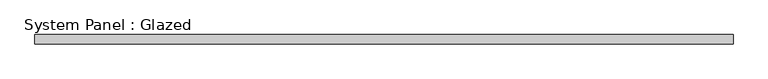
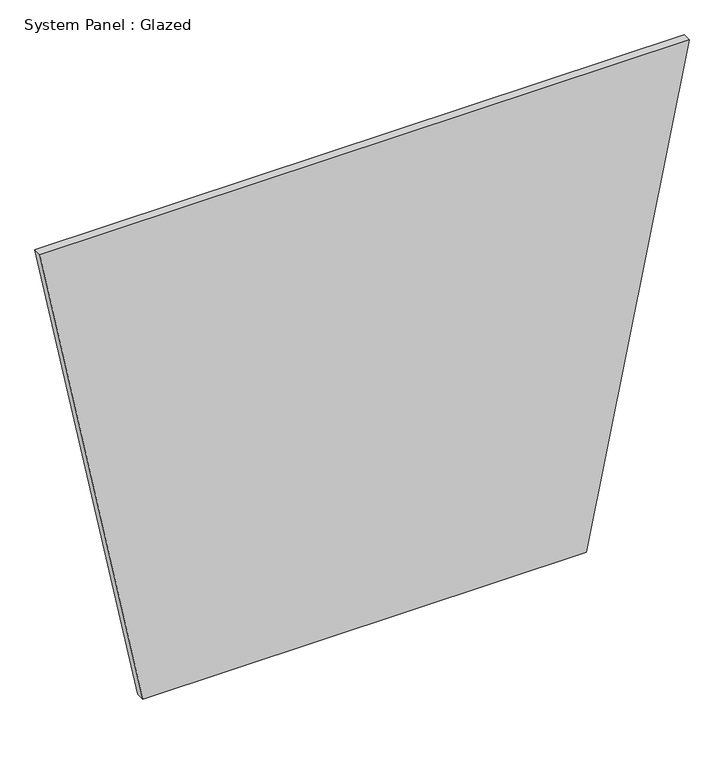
"""IFC4 building model written with IfcOpenShell, lengths in millimetres: plate geometry, System Panel : Glazed."""

from ifc_helpers import new_model, si_unit, frame, origin, place, context, project, spatial, polyline, outline, extrude, source, transform, mapped, element, save


def system_panel_glazed_10bcf4cf(model_context):
    return source(origin(), model_context, "Body", "SweptSolid", [
        extrude(outline(polyline([(0.0, -654.7171404), (0.0, 654.7171404), (1493.3788447, 958.6836288), (1493.3788447, -958.6836288), (0.0, -654.7171404)])), frame((0.0, -44.45, 0.0), z_axis=(0.0, 1.0, 0.0), x_axis=(0.0, 0.0, 1.0)), (0.0, 0.0, 1.0), 25.4),
    ])


if __name__ == "__main__":
    model = new_model("IFC4")
    model_context = context("Model", 3, world=origin())
    ifc_project = project(units=[si_unit("LENGTHUNIT", "METRE", prefix="MILLI")], contexts=[model_context])
    site = spatial("IfcSite", under=ifc_project)
    building = spatial("IfcBuilding", under=site)
    placement = place(None, origin())
    system_panel_glazed_shape = system_panel_glazed_10bcf4cf(model_context)
    element("IfcPlate", 1, ObjectType="System Panel : Glazed", at=placement, inside=building, context=model_context, shape_type="MappedRepresentation", body=[
        mapped(system_panel_glazed_shape, transform((0.0, 0.0, 0.0), x_axis=(1.0, 0.0, 0.0), y_axis=(0.0, 1.0, 0.0), z_axis=(0.0, 0.0, 1.0))),
    ])
    save(model, "model.ifc")
